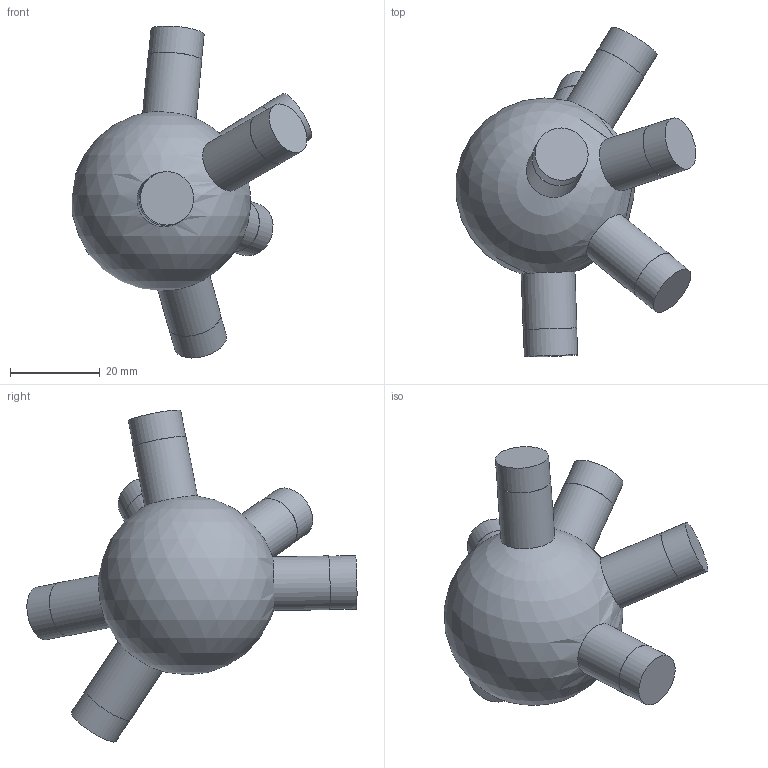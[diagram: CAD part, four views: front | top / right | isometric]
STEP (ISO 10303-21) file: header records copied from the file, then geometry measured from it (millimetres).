
FILE_DESCRIPTION(('Open CASCADE Model'),'2;1');
FILE_NAME('Open CASCADE Shape Model','2026-10-21T12:47:57',('Author'),( 'Open CASCADE'),'Open CASCADE STEP processor 7.9','Open CASCADE 7.9' ,'Unknown');
FILE_SCHEMA(('AUTOMOTIVE_DESIGN { 1 0 10303 214 1 1 1 1 }'));
Length unit declared in the file: millimetre
Products named in the file (1): Open CASCADE STEP translator 7.9 112
Bounding box: 53.45 x 73.61 x 74.05 mm (x, y, z)
Volume: 46282.4 mm3; surface area: 9384.1 mm2
Topology: 1 solids, 1 shells, 25 faces, 42 edges, 28 vertices
Faces by surface type: cylinder 12, plane 12, sphere 1
Full cylindrical faces by diameter (mm): 11.9 x6, 12 x6
Entity records: 1528 total; most frequent: CARTESIAN_POINT 580, DIRECTION 195, ORIENTED_EDGE 82, PCURVE 82, DEFINITIONAL_REPRESENTATION 82, LINE 67, VECTOR 67, AXIS2_PLACEMENT_3D 55
